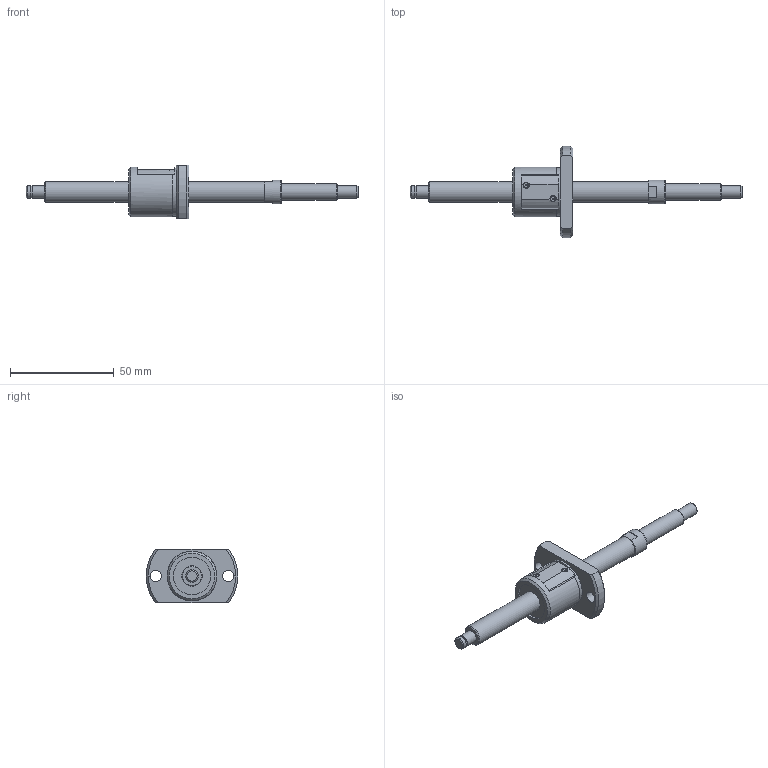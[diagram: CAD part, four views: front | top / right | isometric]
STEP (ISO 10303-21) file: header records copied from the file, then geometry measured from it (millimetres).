
FILE_DESCRIPTION(/* description */ ('STEP AP214'),/* implementation_level */ '2;1');
FILE_NAME(/* name */ 'SG1004-101R160C5B0X(40.5)',/* time_stamp */ '2026-07-24T15:15:12+02:00',/* author */ ('License CC BY-ND 4.0'),/* organization */ ('CADENAS'),/* preprocessor_version */ 'ST-DEVELOPER v20',/* originating_system */ 'PARTsolutions',/* authorisation */ ' ');
FILE_SCHEMA (('AUTOMOTIVE_DESIGN {1 0 10303 214 3 1 1}'));
Length unit declared in the file: millimetre
Products named in the file (3): SG1004-101R160C5B0X(40.5); SG1004-101R160C5B_shaft; SG1004 C5_nut
Assembly tree (2 placements, depth 2):
  SG1004-101R160C5B0X(40.5)
    SG1004-101R160C5B_shaft
    SG1004 C5_nut
Bounding box: 160 x 44 x 26 mm (x, y, z)
Volume: 24566.9 mm3; surface area: 10335.6 mm2
Topology: 2 solids, 2 shells, 79 faces, 188 edges, 123 vertices
Faces by surface type: plane 38, cylinder 26, cone 14, torus 1
Full cylindrical faces by diameter (mm): 5.5 x2, 5.7 x1, 6 x3, 8 x1, 10 x2, 11.5 x1, 18 x2, 23.5 x1, 24 x1
Entity records: 2197 total; most frequent: CARTESIAN_POINT 408, DIRECTION 374, ORIENTED_EDGE 306, AXIS2_PLACEMENT_3D 157, EDGE_CURVE 153, EDGE_LOOP 120, FACE_BOUND 120, VERTEX_POINT 113
